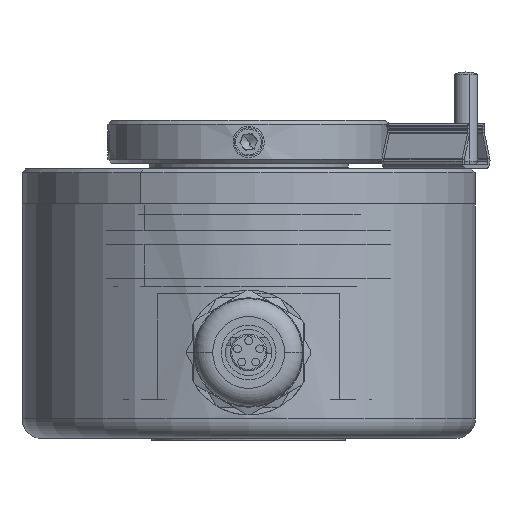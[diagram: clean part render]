
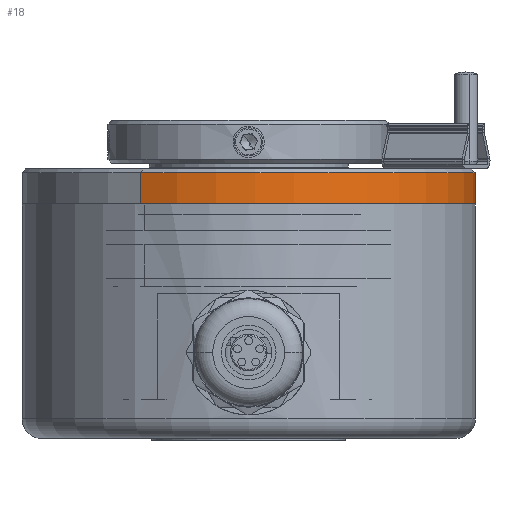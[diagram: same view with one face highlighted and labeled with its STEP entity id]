
A CAD part, front view. The second image highlights one B-rep face of the part: STEP entity #18.
In plain terms, the highlighted cylindrical face has radius 29 mm (diameter 58 mm), a partial arc.
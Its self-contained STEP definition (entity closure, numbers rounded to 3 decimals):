
#17 = ORIENTED_EDGE ( 'NONE', *, *, #33204, .F. ) ;
#18 = ADVANCED_FACE ( 'NONE', ( #30040 ), #30083, .T. ) ;
#20 = EDGE_CURVE ( 'NONE', #33196, #33059, #30082, .T. ) ;
#21 = ORIENTED_EDGE ( 'NONE', *, *, #25, .T. ) ;
#22 = ORIENTED_EDGE ( 'NONE', *, *, #33057, .T. ) ;
#23 = ORIENTED_EDGE ( 'NONE', *, *, #20, .F. ) ;
#25 = EDGE_CURVE ( 'NONE', #33102, #33088, #30073, .T. ) ;
#26 = EDGE_LOOP ( 'NONE', ( #17, #21, #22, #23 ) ) ;
#22044 = CARTESIAN_POINT ( 'NONE',  ( -14.203, -25.723, 5.45 ) ) ;
#22045 = DIRECTION ( 'NONE',  ( 0., 0., -1. ) ) ;
#22046 = VECTOR ( 'NONE', #22045, 1000. ) ;
#22047 = CARTESIAN_POINT ( 'NONE',  ( -14.203, -25.723, 9.95 ) ) ;
#22048 = LINE ( 'NONE', #22047, #22046 ) ;
#22136 = CARTESIAN_POINT ( 'NONE',  ( -14.203, -25.723, 9.45 ) ) ;
#22163 = CARTESIAN_POINT ( 'NONE',  ( 13.386, 25.295, 9.45 ) ) ;
#22490 = DIRECTION ( 'NONE',  ( 0., 0., -1. ) ) ;
#22491 = VECTOR ( 'NONE', #22490, 1000. ) ;
#22492 = CARTESIAN_POINT ( 'NONE',  ( 13.386, 25.295, 9.95 ) ) ;
#22493 = LINE ( 'NONE', #22492, #22491 ) ;
#22501 = CARTESIAN_POINT ( 'NONE',  ( 13.386, 25.295, 5.45 ) ) ;
#30040 = FACE_OUTER_BOUND ( 'NONE', #26, .T. ) ;
#30069 = DIRECTION ( 'NONE',  ( 0.476, 0.88, 0. ) ) ;
#30070 = DIRECTION ( 'NONE',  ( 0., 0., -1. ) ) ;
#30071 = CARTESIAN_POINT ( 'NONE',  ( -0.409, -0.214, 9.45 ) ) ;
#30072 = AXIS2_PLACEMENT_3D ( 'NONE', #30071, #30070, #30069 ) ;
#30073 = CIRCLE ( 'NONE', #30072, 29. ) ;
#30074 = DIRECTION ( 'NONE',  ( -0.476, -0.88, 0. ) ) ;
#30075 = DIRECTION ( 'NONE',  ( 0., 0., -1. ) ) ;
#30076 = CARTESIAN_POINT ( 'NONE',  ( -0.409, -0.214, 5.45 ) ) ;
#30077 = AXIS2_PLACEMENT_3D ( 'NONE', #30076, #30075, #30074 ) ;
#30078 = DIRECTION ( 'NONE',  ( -0.476, -0.88, 0. ) ) ;
#30079 = DIRECTION ( 'NONE',  ( 0., 0., -1. ) ) ;
#30080 = CARTESIAN_POINT ( 'NONE',  ( -0.409, -0.214, 9.95 ) ) ;
#30081 = AXIS2_PLACEMENT_3D ( 'NONE', #30080, #30079, #30078 ) ;
#30082 = CIRCLE ( 'NONE', #30077, 29. ) ;
#30083 = CYLINDRICAL_SURFACE ( 'NONE', #30081, 29. ) ;
#33057 = EDGE_CURVE ( 'NONE', #33088, #33059, #22048, .T. ) ;
#33059 = VERTEX_POINT ( 'NONE', #22044 ) ;
#33088 = VERTEX_POINT ( 'NONE', #22136 ) ;
#33102 = VERTEX_POINT ( 'NONE', #22163 ) ;
#33196 = VERTEX_POINT ( 'NONE', #22501 ) ;
#33204 = EDGE_CURVE ( 'NONE', #33102, #33196, #22493, .T. ) ;
